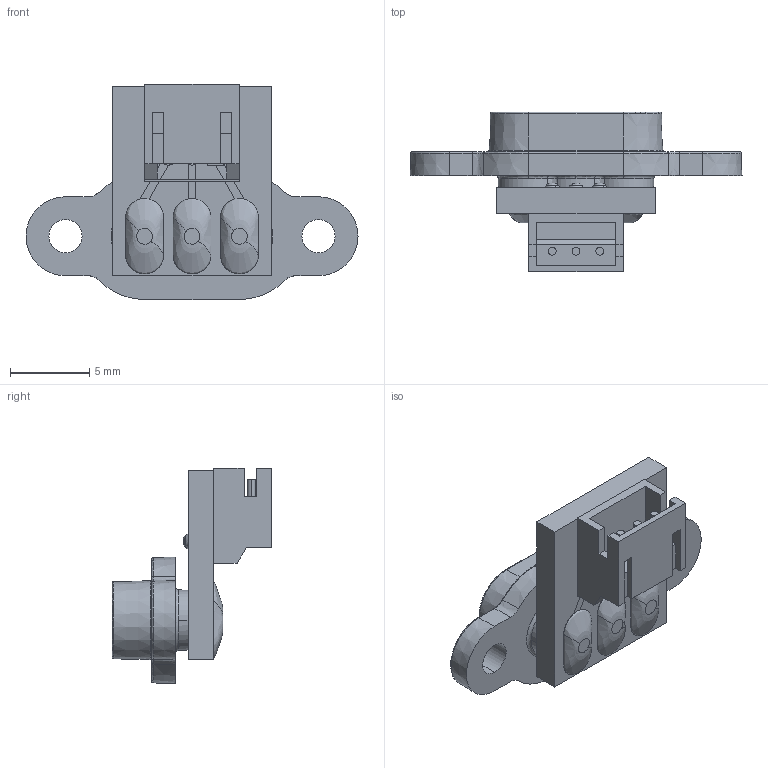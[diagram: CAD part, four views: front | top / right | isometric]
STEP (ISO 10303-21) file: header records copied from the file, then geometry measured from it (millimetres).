
FILE_DESCRIPTION (( 'STEP AP214' ), '1' );
FILE_NAME ('SWIFT DOCK MINI-3PC-L.STEP', '2021-07-28T11:36:55', ( '' ), ( '' ), 'SwSTEP 2.0', 'SolidWorks 2021', '' );
FILE_SCHEMA (( 'AUTOMOTIVE_DESIGN' ));
Length unit declared in the file: millimetre
Products named in the file (8): land body_3 hole_mini_1; S3B-ZR; solder_large_SD mini_4; PCB_3 way_mini_assy_with connector; solder spill_small_sd mini_2; PCB_3 way_mini; SWIFT DOCK MINI-3PC-L; contact land_sd_mini_4
Assembly tree (13 placements, depth 3):
  SWIFT DOCK MINI-3PC-L
    land body_3 hole_mini_1
    contact land_sd_mini_4  x3
    PCB_3 way_mini_assy_with connector
      PCB_3 way_mini
      S3B-ZR
    solder_large_SD mini_4  x3
    solder spill_small_sd mini_2  x3
Bounding box: 21 x 10.1 x 13.6 mm (x, y, z)
Volume: 593.7 mm3; surface area: 1268.4 mm2
Topology: 12 solids, 12 shells, 372 faces, 902 edges, 569 vertices
Faces by surface type: plane 152, cylinder 94, cone 67, bspline 59
Entity records: 14571 total; most frequent: CARTESIAN_POINT 4023, ORIENTED_EDGE 1512, DIRECTION 1316, EDGE_CURVE 756, AXIS2_PLACEMENT_3D 483, VERTEX_POINT 479, LINE 350, VECTOR 350
